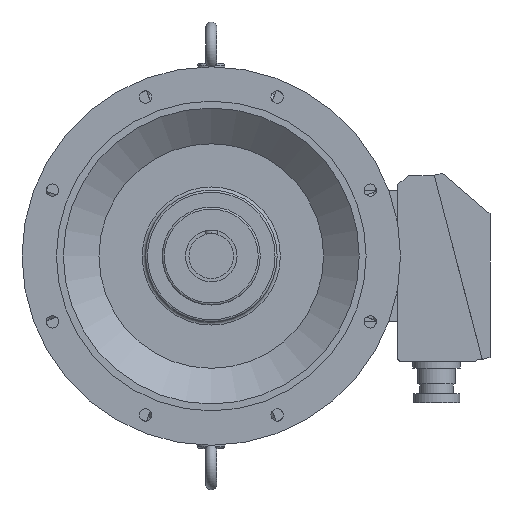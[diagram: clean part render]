
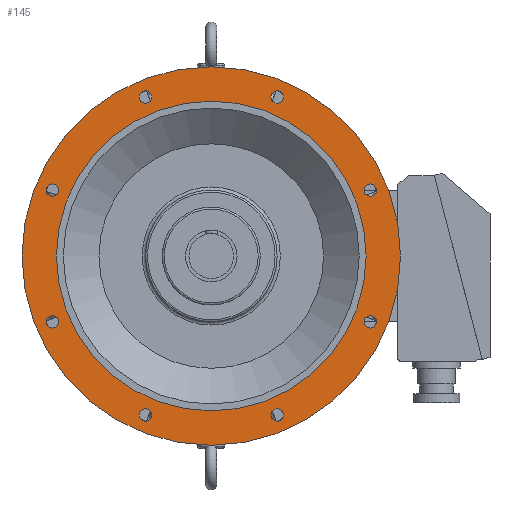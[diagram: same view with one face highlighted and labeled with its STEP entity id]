
A CAD part, front view. The second image highlights one B-rep face of the part: STEP entity #145.
In plain terms, the highlighted planar face has unit normal (0, -1, 0).
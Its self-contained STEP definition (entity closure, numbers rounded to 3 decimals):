
#145 = ADVANCED_FACE( '', ( #701, #702, #703, #704, #705, #706, #707, #708, #709, #710 ), #711, .T. );
#701 = FACE_BOUND( '', #1708, .T. );
#702 = FACE_BOUND( '', #1709, .T. );
#703 = FACE_BOUND( '', #1710, .T. );
#704 = FACE_BOUND( '', #1711, .T. );
#705 = FACE_OUTER_BOUND( '', #1712, .T. );
#706 = FACE_BOUND( '', #1713, .T. );
#707 = FACE_BOUND( '', #1714, .T. );
#708 = FACE_BOUND( '', #1715, .T. );
#709 = FACE_BOUND( '', #1716, .T. );
#710 = FACE_BOUND( '', #1717, .T. );
#711 = PLANE( '', #1718 );
#1708 = EDGE_LOOP( '', ( #3304 ) );
#1709 = EDGE_LOOP( '', ( #3305 ) );
#1710 = EDGE_LOOP( '', ( #3306 ) );
#1711 = EDGE_LOOP( '', ( #3307 ) );
#1712 = EDGE_LOOP( '', ( #3308 ) );
#1713 = EDGE_LOOP( '', ( #3309 ) );
#1714 = EDGE_LOOP( '', ( #3310 ) );
#1715 = EDGE_LOOP( '', ( #3311 ) );
#1716 = EDGE_LOOP( '', ( #3312 ) );
#1717 = EDGE_LOOP( '', ( #3313 ) );
#1718 = AXIS2_PLACEMENT_3D( '', #3314, #3315, #3316 );
#3304 = ORIENTED_EDGE( '', *, *, #6791, .T. );
#3305 = ORIENTED_EDGE( '', *, *, #6795, .T. );
#3306 = ORIENTED_EDGE( '', *, *, #6799, .T. );
#3307 = ORIENTED_EDGE( '', *, *, #6803, .T. );
#3308 = ORIENTED_EDGE( '', *, *, #6840, .T. );
#3309 = ORIENTED_EDGE( '', *, *, #6841, .F. );
#3310 = ORIENTED_EDGE( '', *, *, #6801, .T. );
#3311 = ORIENTED_EDGE( '', *, *, #6797, .T. );
#3312 = ORIENTED_EDGE( '', *, *, #6793, .T. );
#3313 = ORIENTED_EDGE( '', *, *, #6780, .T. );
#3314 = CARTESIAN_POINT( '', ( 0., 140., 225. ) );
#3315 = DIRECTION( '', ( 0., -1., 0. ) );
#3316 = DIRECTION( '', ( 1., 0., 0. ) );
#6780 = EDGE_CURVE( '', #8331, #8331, #8332, .T. );
#6791 = EDGE_CURVE( '', #8350, #8350, #8351, .T. );
#6793 = EDGE_CURVE( '', #8354, #8354, #8355, .T. );
#6795 = EDGE_CURVE( '', #8358, #8358, #8359, .T. );
#6797 = EDGE_CURVE( '', #8362, #8362, #8363, .T. );
#6799 = EDGE_CURVE( '', #8366, #8366, #8367, .T. );
#6801 = EDGE_CURVE( '', #8370, #8370, #8371, .T. );
#6803 = EDGE_CURVE( '', #8374, #8374, #8375, .T. );
#6840 = EDGE_CURVE( '', #8440, #8440, #8441, .T. );
#6841 = EDGE_CURVE( '', #8442, #8442, #8443, .T. );
#8331 = VERTEX_POINT( '', #11120 );
#8332 = CIRCLE( '', #11121, 9. );
#8350 = VERTEX_POINT( '', #11557 );
#8351 = CIRCLE( '', #11558, 9. );
#8354 = VERTEX_POINT( '', #11561 );
#8355 = CIRCLE( '', #11562, 9. );
#8358 = VERTEX_POINT( '', #11565 );
#8359 = CIRCLE( '', #11566, 9. );
#8362 = VERTEX_POINT( '', #11569 );
#8363 = CIRCLE( '', #11570, 9. );
#8366 = VERTEX_POINT( '', #11573 );
#8367 = CIRCLE( '', #11574, 9. );
#8370 = VERTEX_POINT( '', #11577 );
#8371 = CIRCLE( '', #11578, 9. );
#8374 = VERTEX_POINT( '', #11581 );
#8375 = CIRCLE( '', #11582, 9. );
#8440 = VERTEX_POINT( '', #11676 );
#8441 = CIRCLE( '', #11677, 275. );
#8442 = VERTEX_POINT( '', #11678 );
#8443 = CIRCLE( '', #11679, 225. );
#11120 = CARTESIAN_POINT( '', ( -86.671, 140., 230.97 ) );
#11121 = AXIS2_PLACEMENT_3D( '', #14388, #14389, #14390 );
#11557 = CARTESIAN_POINT( '', ( -221.97, 140., 95.671 ) );
#11558 = AXIS2_PLACEMENT_3D( '', #14403, #14404, #14405 );
#11561 = CARTESIAN_POINT( '', ( -221.97, 140., -95.671 ) );
#11562 = AXIS2_PLACEMENT_3D( '', #14409, #14410, #14411 );
#11565 = CARTESIAN_POINT( '', ( -86.671, 140., -230.97 ) );
#11566 = AXIS2_PLACEMENT_3D( '', #14415, #14416, #14417 );
#11569 = CARTESIAN_POINT( '', ( 104.671, 140., -230.97 ) );
#11570 = AXIS2_PLACEMENT_3D( '', #14421, #14422, #14423 );
#11573 = CARTESIAN_POINT( '', ( 239.97, 140., -95.671 ) );
#11574 = AXIS2_PLACEMENT_3D( '', #14427, #14428, #14429 );
#11577 = CARTESIAN_POINT( '', ( 104.671, 140., 230.97 ) );
#11578 = AXIS2_PLACEMENT_3D( '', #14433, #14434, #14435 );
#11581 = CARTESIAN_POINT( '', ( 239.97, 140., 95.671 ) );
#11582 = AXIS2_PLACEMENT_3D( '', #14439, #14440, #14441 );
#11676 = CARTESIAN_POINT( '', ( 275., 140., 0. ) );
#11677 = AXIS2_PLACEMENT_3D( '', #14492, #14493, #14494 );
#11678 = CARTESIAN_POINT( '', ( 225., 140., 0. ) );
#11679 = AXIS2_PLACEMENT_3D( '', #14495, #14496, #14497 );
#14388 = CARTESIAN_POINT( '', ( -95.671, 140., 230.97 ) );
#14389 = DIRECTION( '', ( 0., 1., 0. ) );
#14390 = DIRECTION( '', ( 1., 0., 0. ) );
#14403 = CARTESIAN_POINT( '', ( -230.97, 140., 95.671 ) );
#14404 = DIRECTION( '', ( 0., 1., 0. ) );
#14405 = DIRECTION( '', ( 1., 0., 0. ) );
#14409 = CARTESIAN_POINT( '', ( -230.97, 140., -95.671 ) );
#14410 = DIRECTION( '', ( 0., 1., 0. ) );
#14411 = DIRECTION( '', ( 1., 0., 0. ) );
#14415 = CARTESIAN_POINT( '', ( -95.671, 140., -230.97 ) );
#14416 = DIRECTION( '', ( 0., 1., 0. ) );
#14417 = DIRECTION( '', ( 1., 0., 0. ) );
#14421 = CARTESIAN_POINT( '', ( 95.671, 140., -230.97 ) );
#14422 = DIRECTION( '', ( 0., 1., 0. ) );
#14423 = DIRECTION( '', ( 1., 0., 0. ) );
#14427 = CARTESIAN_POINT( '', ( 230.97, 140., -95.671 ) );
#14428 = DIRECTION( '', ( 0., 1., 0. ) );
#14429 = DIRECTION( '', ( 1., 0., 0. ) );
#14433 = CARTESIAN_POINT( '', ( 95.671, 140., 230.97 ) );
#14434 = DIRECTION( '', ( 0., 1., 0. ) );
#14435 = DIRECTION( '', ( 1., 0., 0. ) );
#14439 = CARTESIAN_POINT( '', ( 230.97, 140., 95.671 ) );
#14440 = DIRECTION( '', ( 0., 1., 0. ) );
#14441 = DIRECTION( '', ( 1., 0., 0. ) );
#14492 = CARTESIAN_POINT( '', ( 0., 140., 0. ) );
#14493 = DIRECTION( '', ( 0., -1., 0. ) );
#14494 = DIRECTION( '', ( 1., 0., 0. ) );
#14495 = CARTESIAN_POINT( '', ( 0., 140., 0. ) );
#14496 = DIRECTION( '', ( 0., -1., 0. ) );
#14497 = DIRECTION( '', ( 1., 0., 0. ) );
